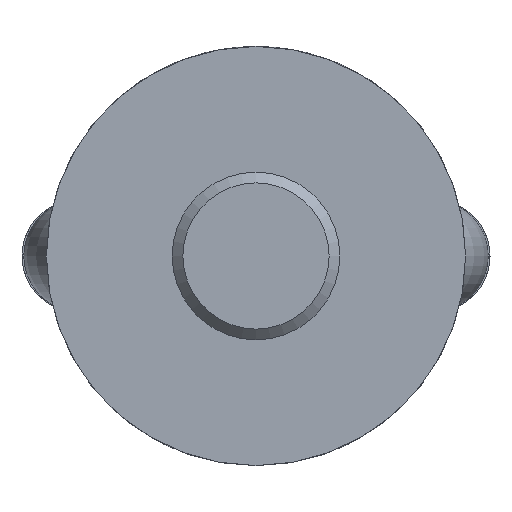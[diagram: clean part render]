
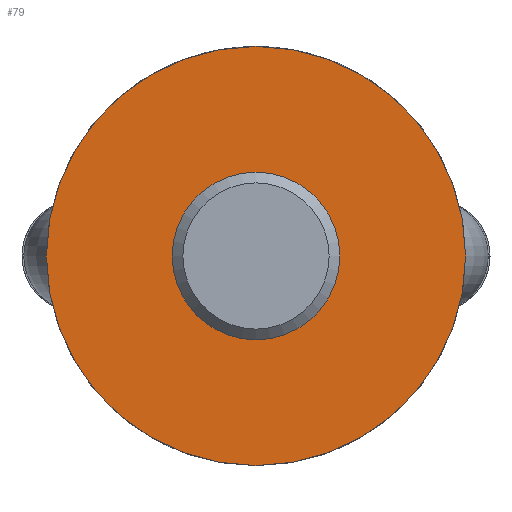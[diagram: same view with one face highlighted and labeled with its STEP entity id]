
A CAD part, front view. The second image highlights one B-rep face of the part: STEP entity #79.
In plain terms, the highlighted planar face has unit normal (0, -1, 0).
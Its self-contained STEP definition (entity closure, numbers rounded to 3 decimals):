
#79 = ADVANCED_FACE( '', ( #115, #116 ), #117, .F. );
#115 = FACE_BOUND( '', #183, .T. );
#116 = FACE_OUTER_BOUND( '', #184, .T. );
#117 = PLANE( '', #185 );
#183 = EDGE_LOOP( '', ( #282 ) );
#184 = EDGE_LOOP( '', ( #283 ) );
#185 = AXIS2_PLACEMENT_3D( '', #284, #285, #286 );
#282 = ORIENTED_EDGE( '', *, *, #454, .T. );
#283 = ORIENTED_EDGE( '', *, *, #455, .T. );
#284 = CARTESIAN_POINT( '', ( 60., 0., 0. ) );
#285 = DIRECTION( '', ( 0., 1., 0. ) );
#286 = DIRECTION( '', ( 0., 0., 1. ) );
#454 = EDGE_CURVE( '', #532, #532, #533, .T. );
#455 = EDGE_CURVE( '', #534, #534, #535, .T. );
#532 = VERTEX_POINT( '', #997 );
#533 = CIRCLE( '', #998, 24. );
#534 = VERTEX_POINT( '', #999 );
#535 = CIRCLE( '', #1000, 60. );
#997 = CARTESIAN_POINT( '', ( 0., 0., 24. ) );
#998 = AXIS2_PLACEMENT_3D( '', #1048, #1049, #1050 );
#999 = CARTESIAN_POINT( '', ( 0., 0., -60. ) );
#1000 = AXIS2_PLACEMENT_3D( '', #1051, #1052, #1053 );
#1048 = CARTESIAN_POINT( '', ( 0., 0., 0. ) );
#1049 = DIRECTION( '', ( 0., 1., 0. ) );
#1050 = DIRECTION( '', ( 0., 0., 1. ) );
#1051 = CARTESIAN_POINT( '', ( 0., 0., 0. ) );
#1052 = DIRECTION( '', ( 0., -1., 0. ) );
#1053 = DIRECTION( '', ( 0., 0., -1. ) );
